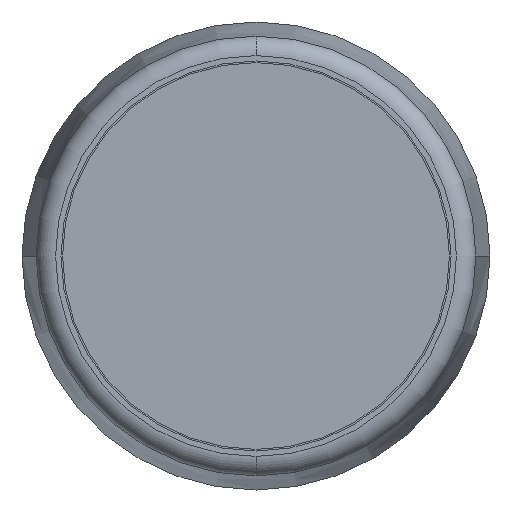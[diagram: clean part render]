
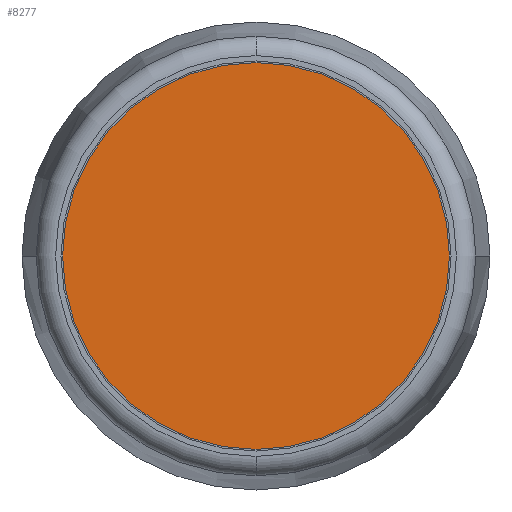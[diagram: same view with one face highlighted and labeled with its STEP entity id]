
A CAD part, front view. The second image highlights one B-rep face of the part: STEP entity #8277.
In plain terms, the highlighted planar face has unit normal (0, -1, 0).
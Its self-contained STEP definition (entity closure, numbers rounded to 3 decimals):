
#453 = CIRCLE ( 'NONE', #499, 2.5 ) ;
#499 = AXIS2_PLACEMENT_3D ( 'NONE', #10722, #10700, #10707 ) ;
#1023 = EDGE_CURVE ( 'NONE', #1701, #1750, #453, .T. ) ;
#1087 = EDGE_CURVE ( 'NONE', #1750, #1701, #5637, .T. ) ;
#1569 = EDGE_LOOP ( 'NONE', ( #2167, #2144 ) ) ;
#1701 = VERTEX_POINT ( 'NONE', #5904 ) ;
#1750 = VERTEX_POINT ( 'NONE', #5959 ) ;
#2144 = ORIENTED_EDGE ( 'NONE', *, *, #1023, .F. ) ;
#2167 = ORIENTED_EDGE ( 'NONE', *, *, #1087, .F. ) ;
#4875 = DIRECTION ( 'NONE',  ( 0., 0., 1. ) ) ;
#4877 = FACE_OUTER_BOUND ( 'NONE', #1569, .T. ) ;
#4910 = PLANE ( 'NONE',  #8575 ) ;
#4911 = CARTESIAN_POINT ( 'NONE',  ( -2.562, 0.15, -10. ) ) ;
#4912 = DIRECTION ( 'NONE',  ( 0., 1., 0. ) ) ;
#5637 = CIRCLE ( 'NONE', #5645, 2.5 ) ;
#5645 = AXIS2_PLACEMENT_3D ( 'NONE', #10527, #10518, #10519 ) ;
#5904 = CARTESIAN_POINT ( 'NONE',  ( 0., 0.15, -2.5 ) ) ;
#5959 = CARTESIAN_POINT ( 'NONE',  ( 0., 0.15, 2.5 ) ) ;
#8277 = ADVANCED_FACE ( 'NONE', ( #4877 ), #4910, .F. ) ;
#8575 = AXIS2_PLACEMENT_3D ( 'NONE', #4911, #4912, #4875 ) ;
#10518 = DIRECTION ( 'NONE',  ( 0., 1., 0. ) ) ;
#10519 = DIRECTION ( 'NONE',  ( 0., 0., 1. ) ) ;
#10527 = CARTESIAN_POINT ( 'NONE',  ( 0., 0.15, 0. ) ) ;
#10700 = DIRECTION ( 'NONE',  ( 0., 1., 0. ) ) ;
#10707 = DIRECTION ( 'NONE',  ( 0., 0., 1. ) ) ;
#10722 = CARTESIAN_POINT ( 'NONE',  ( 0., 0.15, 0. ) ) ;
